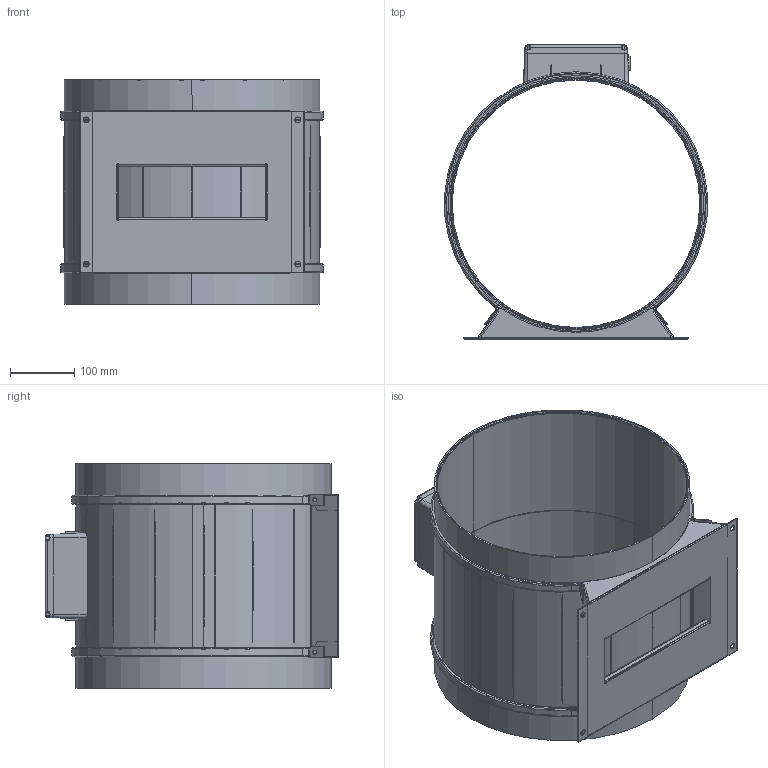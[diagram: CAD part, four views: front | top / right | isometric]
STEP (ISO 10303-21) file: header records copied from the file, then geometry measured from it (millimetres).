
FILE_DESCRIPTION (( 'STEP AP203' ), '1' );
FILE_NAME ('129165-01_EM400E4M01.STEP', '2014-07-04T07:23:14', ( '' ), ( '' ), 'SwSTEP 2.0', 'SolidWorks 2012', '' );
FILE_SCHEMA (( 'CONFIG_CONTROL_DESIGN' ));
Length unit declared in the file: millimetre
Products named in the file (1): 129165-01_EM400E4M01
Bounding box: 409.55 x 458.4 x 350 mm (x, y, z)
Surface area: 1250027.7 mm2 (no closed solid volume)
Topology: 0 solids, 18 shells, 525 faces, 1982 edges, 1372 vertices
Faces by surface type: cylinder 185, plane 150, bspline 93, torus 65, cone 30, sphere 2
Entity records: 28807 total; most frequent: CARTESIAN_POINT 13555, DIRECTION 2946, ORIENTED_EDGE 2910, EDGE_CURVE 1978, VERTEX_POINT 1372, AXIS2_PLACEMENT_3D 1046, LINE 854, VECTOR 854
